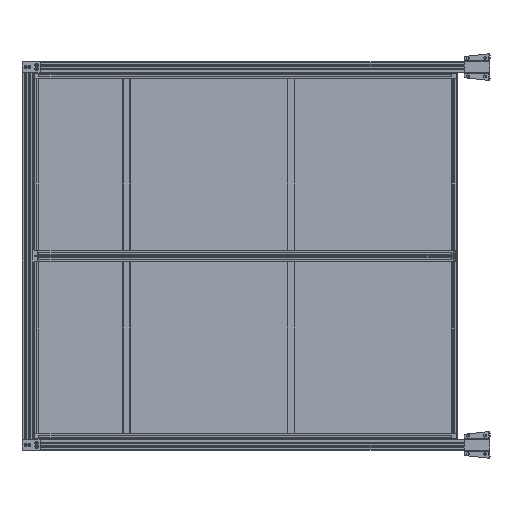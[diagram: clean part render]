
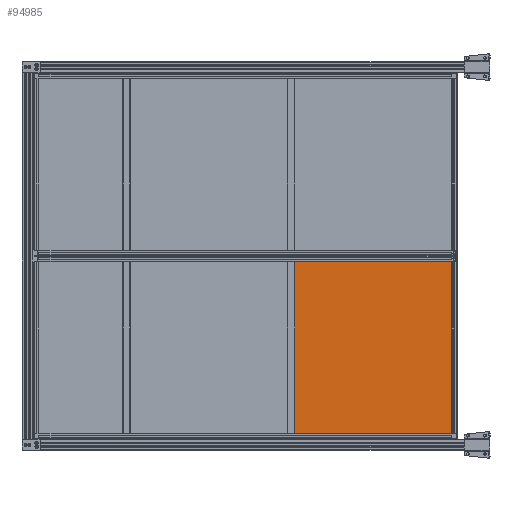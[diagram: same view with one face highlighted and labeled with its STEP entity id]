
A CAD part, top view. The second image highlights one B-rep face of the part: STEP entity #94985.
In plain terms, the highlighted planar face has unit normal (0, 0, 1).
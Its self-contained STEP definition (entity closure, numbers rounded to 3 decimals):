
#12374=FACE_OUTER_BOUND('',#17880,.T.);
#17880=EDGE_LOOP('',(#86668,#86669,#86670,#86671));
#26993=LINE('',#166423,#36127);
#26997=LINE('',#166430,#36131);
#27000=LINE('',#166436,#36134);
#27002=LINE('',#166439,#36136);
#36127=VECTOR('',#132411,10.);
#36131=VECTOR('',#132417,10.);
#36134=VECTOR('',#132422,10.);
#36136=VECTOR('',#132426,10.);
#44947=VERTEX_POINT('',#166420);
#44948=VERTEX_POINT('',#166422);
#44950=VERTEX_POINT('',#166428);
#44952=VERTEX_POINT('',#166434);
#58852=EDGE_CURVE('',#44948,#44947,#26993,.T.);
#58856=EDGE_CURVE('',#44947,#44950,#26997,.T.);
#58859=EDGE_CURVE('',#44950,#44952,#27000,.T.);
#58861=EDGE_CURVE('',#44952,#44948,#27002,.T.);
#86668=ORIENTED_EDGE('',*,*,#58861,.T.);
#86669=ORIENTED_EDGE('',*,*,#58852,.T.);
#86670=ORIENTED_EDGE('',*,*,#58856,.T.);
#86671=ORIENTED_EDGE('',*,*,#58859,.T.);
#89820=PLANE('',#104462);
#94985=ADVANCED_FACE('',(#12374),#89820,.F.);
#104462=AXIS2_PLACEMENT_3D('',#166441,#132429,#132430);
#132411=DIRECTION('',(0.,-1.,0.));
#132417=DIRECTION('',(1.,0.,0.));
#132422=DIRECTION('',(0.,1.,0.));
#132426=DIRECTION('',(-1.,0.,0.));
#132429=DIRECTION('center_axis',(0.,0.,
-1.));
#132430=DIRECTION('ref_axis',(1.,0.,0.));
#166420=CARTESIAN_POINT('',(393.565,-1226.744,-433.919));
#166422=CARTESIAN_POINT('',(393.565,-271.744,-433.919));
#166423=CARTESIAN_POINT('',(393.565,-271.744,-433.919));
#166428=CARTESIAN_POINT('',(1268.565,-1226.744,-433.919));
#166430=CARTESIAN_POINT('',(393.565,-1226.744,-433.919));
#166434=CARTESIAN_POINT('',(1268.565,-271.744,-433.919));
#166436=CARTESIAN_POINT('',(1268.565,-1226.744,-433.919));
#166439=CARTESIAN_POINT('',(1268.565,-271.744,-433.919));
#166441=CARTESIAN_POINT('Origin',(831.065,-749.244,-433.919));
